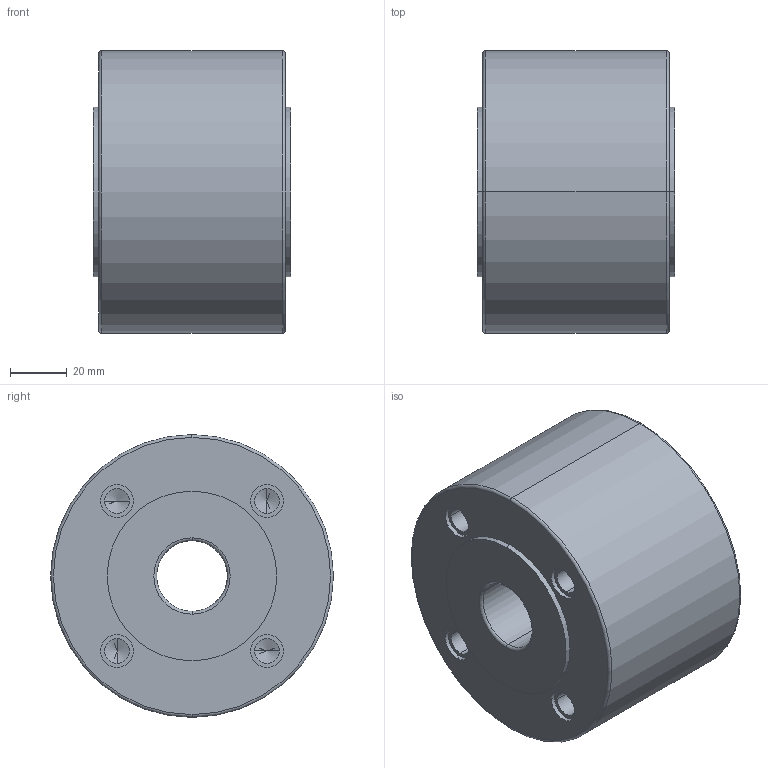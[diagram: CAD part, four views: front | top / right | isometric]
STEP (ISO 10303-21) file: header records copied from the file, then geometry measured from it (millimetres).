
FILE_DESCRIPTION (( 'STEP AP203' ), '1' );
FILE_NAME ('W8_PN06_DN025.STEP', '2012-10-31T07:08:12', ( 'luca.saino' ), ( 'Hewlett-Packard Company' ), 'SwSTEP 2.0', 'SolidWorks 2012', '' );
FILE_SCHEMA (( 'CONFIG_CONTROL_DESIGN' ));
Length unit declared in the file: millimetre
Products named in the file (1): W8_PN06_DN025
Bounding box: 70 x 100 x 100 mm (x, y, z)
Volume: 488034.2 mm3; surface area: 44406.7 mm2
Topology: 1 solids, 1 shells, 76 faces, 168 edges, 96 vertices
Faces by surface type: cylinder 40, cone 16, plane 12, torus 8
Entity records: 2085 total; most frequent: DIRECTION 402, CARTESIAN_POINT 325, ORIENTED_EDGE 304, AXIS2_PLACEMENT_3D 173, EDGE_CURVE 152, EDGE_LOOP 96, VERTEX_POINT 96, CIRCLE 96
